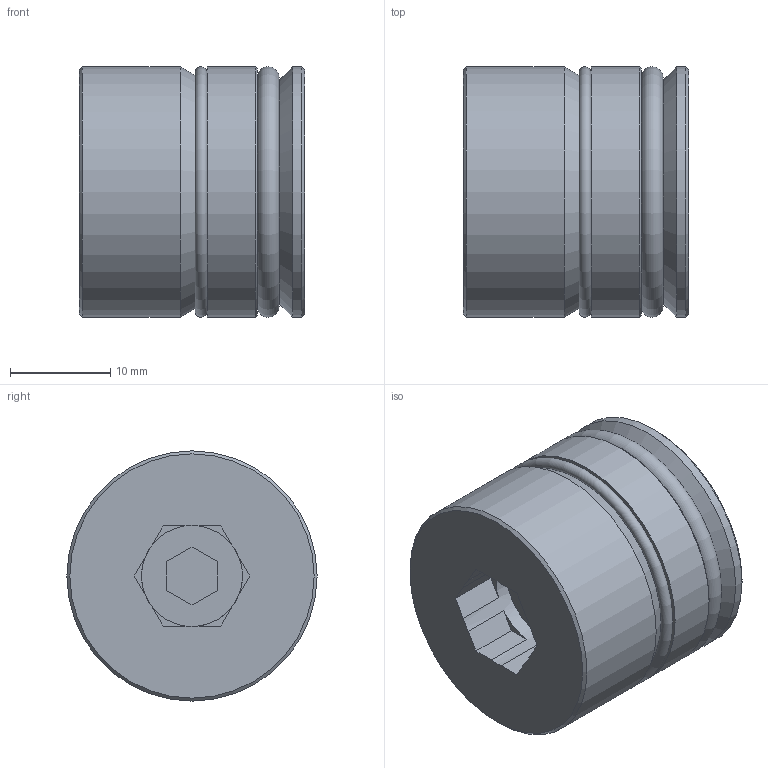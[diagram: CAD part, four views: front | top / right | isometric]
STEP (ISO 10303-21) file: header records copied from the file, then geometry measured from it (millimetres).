
FILE_DESCRIPTION( ( 'STEP AP214' ), '1' );
FILE_NAME( 'p:/temp/worker_227/temp/exporttempdir_600_603_XIGhI/format_0/TRI-25.stp', '2021-02-05T19:30:08', ( 'License CC BY-ND 4.0' ), ( 'CADENAS' ), ' ', 'PARTsolutions', ' ' );
FILE_SCHEMA( ( 'AUTOMOTIVE_DESIGN { 1 0 10303 214 1 1 1 1 }' ) );
Length unit declared in the file: millimetre
Products named in the file (1): _TRI-25
Bounding box: 22.5 x 25 x 25 mm (x, y, z)
Volume: 10149.6 mm3; surface area: 3435 mm2
Topology: 1 solids, 1 shells, 41 faces, 98 edges, 63 vertices
Faces by surface type: plane 30, cone 5, cylinder 4, torus 2
Full cylindrical faces by diameter (mm): 10.1 x1, 25 x3
Entity records: 1470 total; most frequent: DIRECTION 196, CARTESIAN_POINT 192, ORIENTED_EDGE 172, EDGE_CURVE 86, AXIS2_PLACEMENT_3D 68, VERTEX_POINT 64, LINE 60, VECTOR 60
